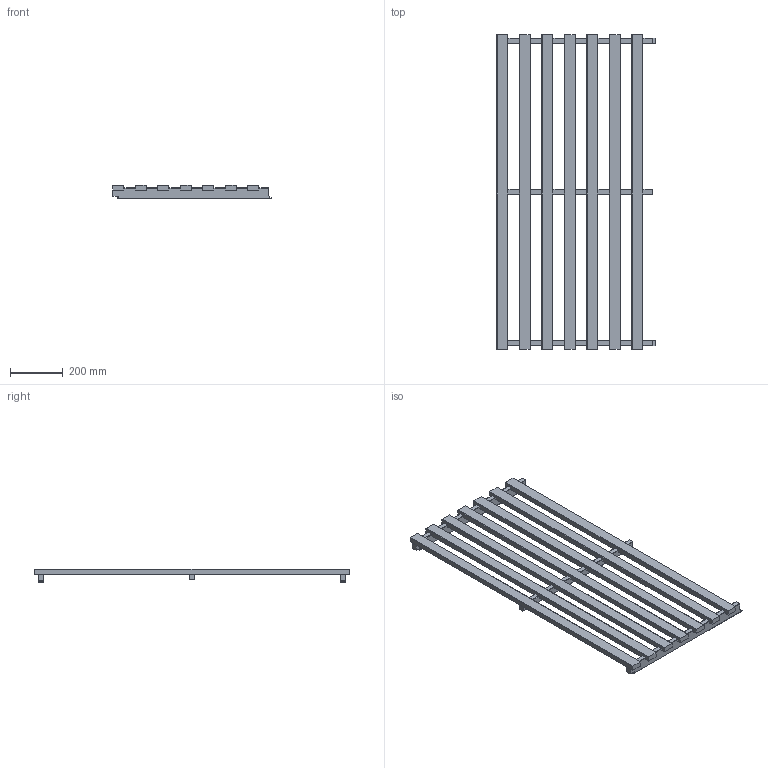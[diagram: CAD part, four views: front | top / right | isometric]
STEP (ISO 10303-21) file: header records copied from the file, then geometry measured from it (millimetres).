
FILE_DESCRIPTION (( 'STEP AP214' ), '1' );
FILE_NAME ('Lao 4.2.4.STEP', '2024-05-31T09:17:22', ( 'UTILISATEUR' ), ( '' ), 'SwSTEP 2.0', 'SolidWorks 2021', '' );
FILE_SCHEMA (( 'AUTOMOTIVE_DESIGN' ));
Length unit declared in the file: millimetre
Products named in the file (4): Contrelatte 20x42_4.2.4; Lame aboutée 20x42x1199mm_1199; Lao 4.2.4; Contrelatte centrale 20x28_4.2.4
Assembly tree (10 placements, depth 2):
  Lao 4.2.4
    Contrelatte 20x42_4.2.4  x2
    Lame aboutée 20x42x1199mm_1199  x7
    Contrelatte centrale 20x28_4.2.4
Bounding box: 603 x 1199 x 52 mm (x, y, z)
Volume: 8154482.1 mm3; surface area: 1220055.6 mm2
Topology: 10 solids, 10 shells, 252 faces, 696 edges, 464 vertices
Faces by surface type: plane 234, cylinder 18
Entity records: 4492 total; most frequent: CARTESIAN_POINT 787, ORIENTED_EDGE 756, DIRECTION 696, EDGE_CURVE 378, LINE 342, VECTOR 342, VERTEX_POINT 252, AXIS2_PLACEMENT_3D 177
